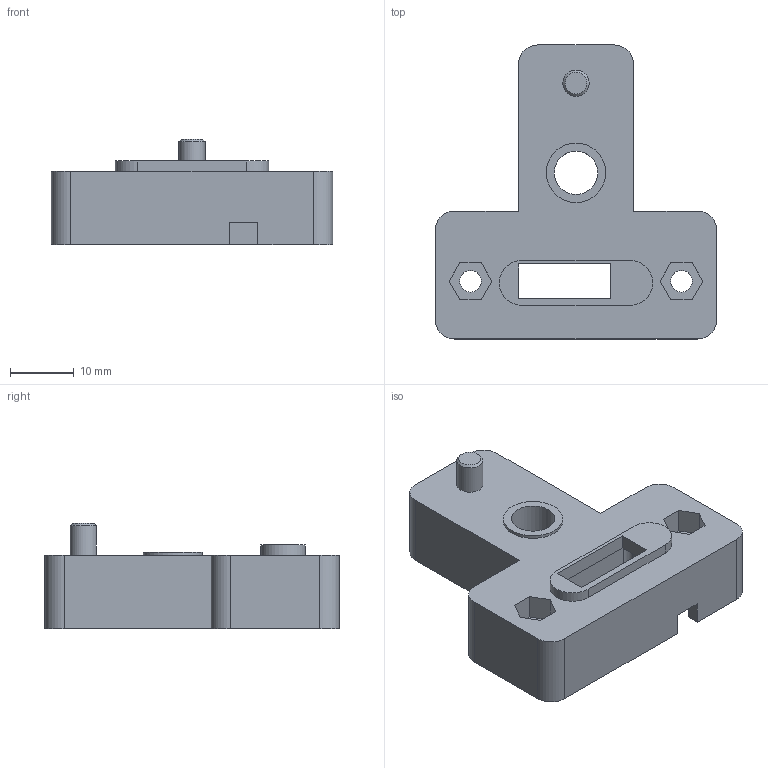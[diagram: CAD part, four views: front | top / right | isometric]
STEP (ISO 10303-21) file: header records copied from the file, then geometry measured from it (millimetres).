
FILE_DESCRIPTION(('Open CASCADE Model'),'2;1');
FILE_NAME('Open CASCADE Shape Model','2026-10-14T21:49:17',('Author'),( 'Open CASCADE'),'Open CASCADE STEP processor 7.9','Open CASCADE 7.9' ,'Unknown');
FILE_SCHEMA(('AUTOMOTIVE_DESIGN { 1 0 10303 214 1 1 1 1 }'));
Length unit declared in the file: millimetre
Products named in the file (1): Open CASCADE STEP translator 7.9 1
Bounding box: 44 x 46 x 16.5 mm (x, y, z)
Volume: 10722.5 mm3; surface area: 6069.8 mm2
Topology: 1 solids, 1 shells, 66 faces, 170 edges, 113 vertices
Faces by surface type: plane 47, cylinder 18, cone 1
Full cylindrical faces by diameter (mm): 3.4 x2, 4.1 x1, 6.8 x1, 9.3 x1, 11.8 x1
Entity records: 4210 total; most frequent: CARTESIAN_POINT 872, DIRECTION 584, LINE 357, VECTOR 357, ORIENTED_EDGE 340, PCURVE 340, DEFINITIONAL_REPRESENTATION 340, EDGE_CURVE 170
